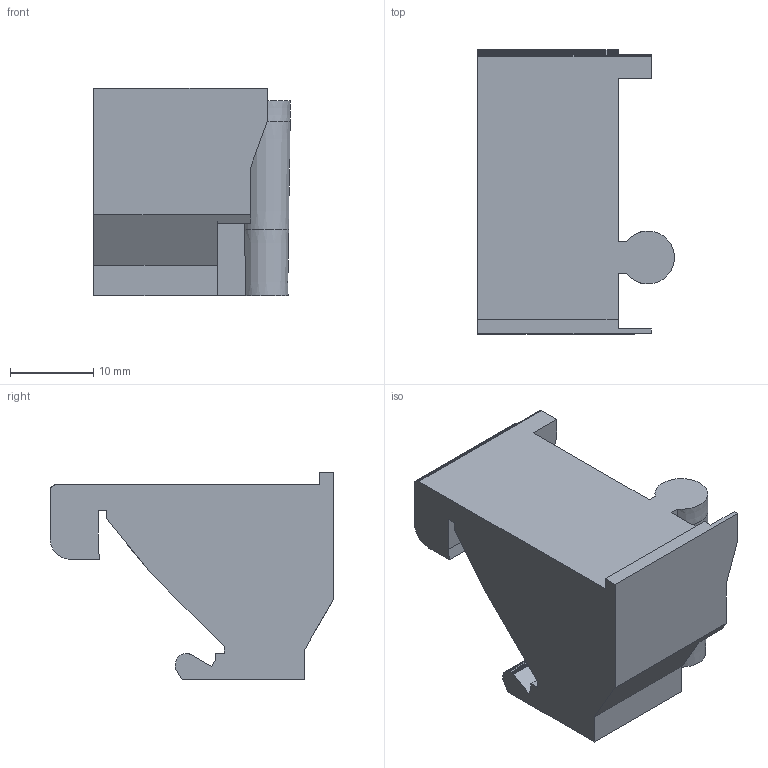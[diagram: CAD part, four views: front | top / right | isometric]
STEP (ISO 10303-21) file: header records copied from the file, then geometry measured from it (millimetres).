
FILE_DESCRIPTION(('Open CASCADE Model'),'2;1');
FILE_NAME('Open CASCADE Shape Model','2026-10-24T08:16:23',('Author'),( 'Open CASCADE'),'Open CASCADE STEP processor 8.0','build123d', 'Unknown');
FILE_SCHEMA(('AUTOMOTIVE_DESIGN { 1 0 10303 214 1 1 1 1 }'));
Length unit declared in the file: millimetre
Products named in the file (1): SOLID
Bounding box: 23.68 x 34.2 x 25 mm (x, y, z)
Volume: 9304.9 mm3; surface area: 3809.3 mm2
Topology: 1 solids, 1 shells, 95 faces, 279 edges, 186 vertices
Faces by surface type: plane 92, cone 3
Entity records: 6356 total; most frequent: CARTESIAN_POINT 1718, ORIENTED_EDGE 558, PCURVE 558, DEFINITIONAL_REPRESENTATION 558, DIRECTION 545, B_SPLINE_CURVE_WITH_KNOTS 487, LINE 344, VECTOR 344
